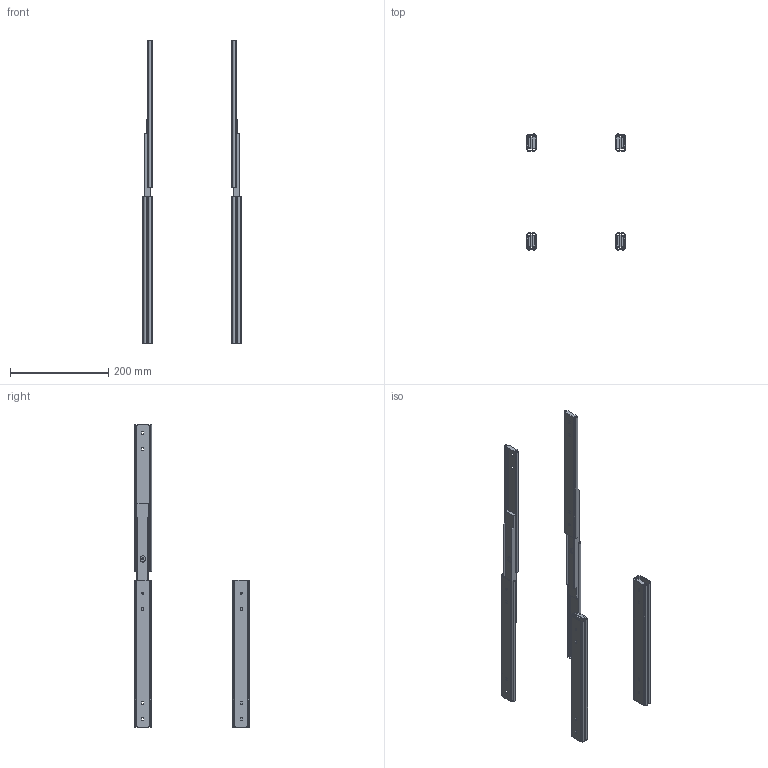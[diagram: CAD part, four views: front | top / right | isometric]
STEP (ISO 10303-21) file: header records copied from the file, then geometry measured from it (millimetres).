
FILE_DESCRIPTION((''),'2;1');
FILE_NAME('D:\01 WORK\DIST\02172A-Drawings for website\3031\STEP\3031-0030.stp','2012-03-06T12:49:55',('jthatch'),(''),'Autodesk Inventor 2012','Autodesk Inventor 2012','');
FILE_SCHEMA(('AUTOMOTIVE_DESIGN { 1 0 10303 214 1 1 1 1 }'));
Length unit declared in the file: millimetre
Products named in the file (3): 3031-0030; 3031-0030 Outer member; 3031-0030 Inter
Assembly tree (12 placements, depth 2):
  3031-0030
    3031-0030 Outer member  x8
    3031-0030 Inter  x4
Bounding box: 200 x 235.31 x 617.4 mm (x, y, z)
Volume: 283480.2 mm3; surface area: 339551.5 mm2
Topology: 12 solids, 12 shells, 464 faces, 1320 edges, 880 vertices
Faces by surface type: plane 312, cylinder 152
Full cylindrical faces by diameter (mm): 4.3 x8
Entity records: 2494 total; most frequent: CARTESIAN_POINT 444, DIRECTION 410, ORIENTED_EDGE 400, EDGE_CURVE 200, VECTOR 154, LINE 154, VERTEX_POINT 134, AXIS2_PLACEMENT_3D 128
